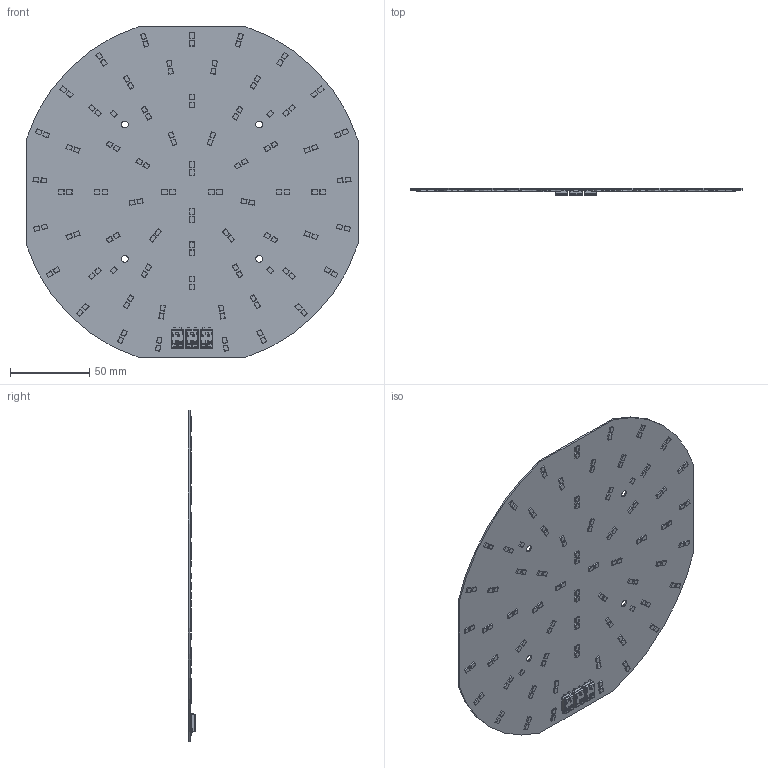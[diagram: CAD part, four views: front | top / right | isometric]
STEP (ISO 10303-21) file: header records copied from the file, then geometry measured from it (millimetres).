
FILE_DESCRIPTION(/* description */ ('Unknown'),/* implementation_level */ '2;1');
FILE_NAME(/* name */ '1010-117-23000 sh-000 2018-03-05',/* time_stamp */ '2018-03-05T14:27:24+01:00',/* author */ ('Unknown'),/* organization */ ('Unknown'),/* preprocessor_version */ 'ST-DEVELOPER v16.7',/* originating_system */ 'DEX',/* authorisation */ $);
FILE_SCHEMA (('AUTOMOTIVE_DESIGN {1 0 10303 214 3 1 1}'));
Length unit declared in the file: millimetre
Products named in the file (4): Z這瞠nie RdLED 220mm 1500lm 827-865 EMG; PCB RdLED 220 EMG 2x64+4; 4010-411-12610 Sh-000 2016-11-03; LED 2835
Assembly tree (136 placements, depth 2):
  Z這瞠nie RdLED 220mm 1500lm 827-865 EMG
    PCB RdLED 220 EMG 2x64+4
    4010-411-12610 Sh-000 2016-11-03  x3
    LED 2835  x132
Bounding box: 210 x 4.5 x 210 mm (x, y, z)
Volume: 38927.3 mm3; surface area: 80174.5 mm2
Topology: 136 solids, 136 shells, 3479 faces, 8718 edges, 5646 vertices
Faces by surface type: plane 2739, cylinder 338, bspline 261, cone 78, torus 33, sphere 30
Full cylindrical faces by diameter (mm): 4.3 x4
Entity records: 19577 total; most frequent: CARTESIAN_POINT 5825, ORIENTED_EDGE 2202, DIRECTION 1966, EDGE_CURVE 1101, AXIS2_PLACEMENT_3D 706, VERTEX_POINT 689, LINE 554, VECTOR 554
